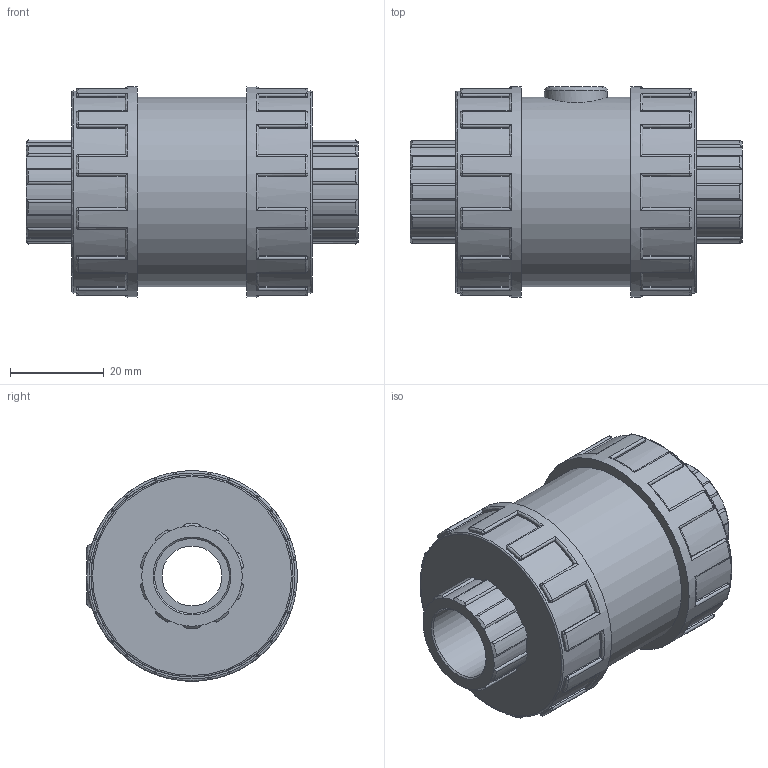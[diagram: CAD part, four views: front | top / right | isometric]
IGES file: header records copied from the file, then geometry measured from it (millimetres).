
Global section: file name: 11080016.ipt; native system: Autodesk Inventor 2015; preprocessor: unknown; author: KIM; date: 20171207.170021; units: millimetre
Bounding box: 71 x 45 x 45 mm (x, y, z)
Volume: 69432.3 mm3; surface area: 15311.7 mm2
Topology: 1 solids, 1 shells, 411 faces, 1033 edges, 630 vertices
Faces by surface type: cylinder 182, plane 105, revolution 56, sphere 48, cone 20
Full cylindrical faces by diameter (mm): 13.5 x1, 40.5 x1, 43.2 x2, 45 x2
